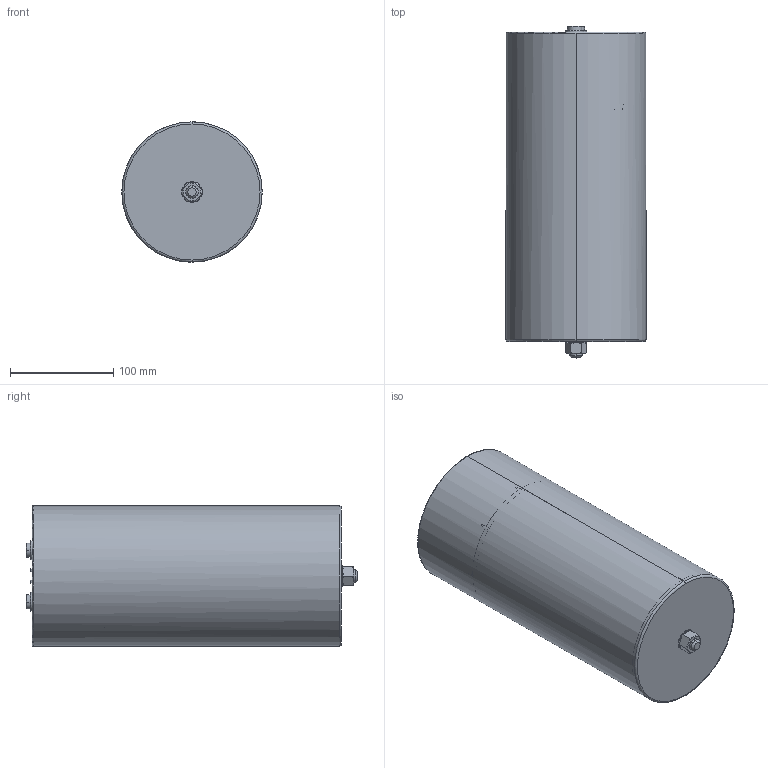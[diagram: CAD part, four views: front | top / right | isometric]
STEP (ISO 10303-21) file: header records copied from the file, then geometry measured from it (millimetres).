
FILE_DESCRIPTION (( 'STEP AP214' ), '1' );
FILE_NAME ('B25690 Series ¦µ136 Hc300 Ht306.STEP', '2025-01-14T08:18:39', ( '' ), ( '' ), 'SwSTEP 2.0', 'SolidWorks 2019', '' );
FILE_SCHEMA (( 'AUTOMOTIVE_DESIGN' ));
Length unit declared in the file: millimetre
Products named in the file (1): B25690 Series 朴136 Hc300 Ht306
Bounding box: 136 x 322 x 136 mm (x, y, z)
Volume: 333636 mm3; surface area: 310954.4 mm2
Topology: 1 solids, 3 shells, 233 faces, 593 edges, 364 vertices
Faces by surface type: plane 104, cylinder 75, cone 38, torus 8, sphere 8
Entity records: 7257 total; most frequent: CARTESIAN_POINT 1649, DIRECTION 1199, ORIENTED_EDGE 1162, EDGE_CURVE 581, AXIS2_PLACEMENT_3D 478, VERTEX_POINT 364, EDGE_LOOP 245, CIRCLE 244
